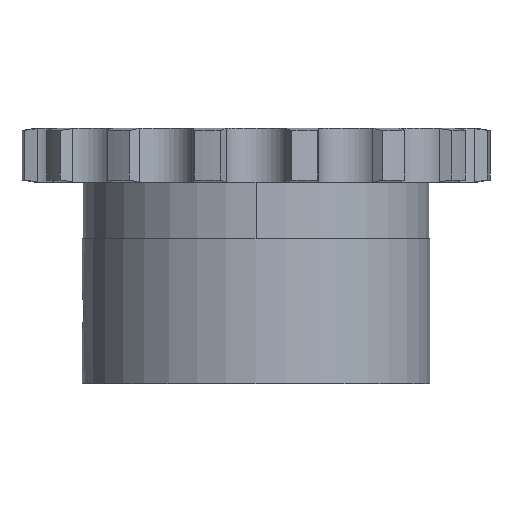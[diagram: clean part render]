
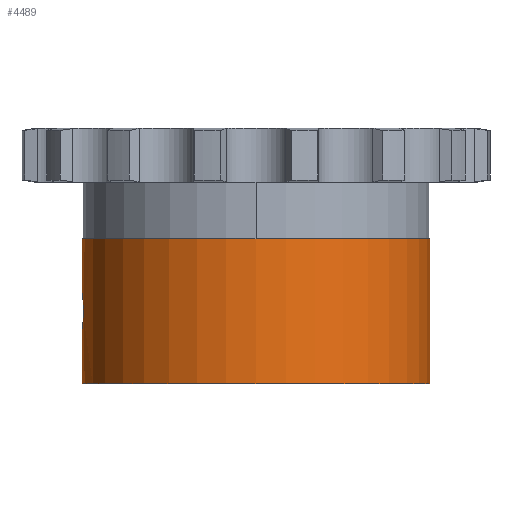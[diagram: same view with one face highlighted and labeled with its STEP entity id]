
A CAD part, front view. The second image highlights one B-rep face of the part: STEP entity #4489.
In plain terms, the highlighted cylindrical face has radius 17 mm (diameter 34 mm), a partial arc.
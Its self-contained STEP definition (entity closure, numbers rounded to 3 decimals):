
#1091=CARTESIAN_POINT('',(-17.,0.,
-13.25));
#1111=DIRECTION('',(0.,0.,1.));
#1112=VECTOR('',#1111,14.2);
#1113=CARTESIAN_POINT('',(17.,0.,-22.35));
#1114=LINE('',#1113,#1112);
#1231=CARTESIAN_POINT('',(0.,0.,-22.35));
#1232=DIRECTION('',(0.,0.,-1.));
#1233=DIRECTION('',(1.,0.,0.));
#1234=AXIS2_PLACEMENT_3D('',#1231,#1232,#1233);
#1260=CARTESIAN_POINT('',(-17.,0.,
-13.25));
#1261=CARTESIAN_POINT('',(-17.,-0.133,-13.25));
#1262=CARTESIAN_POINT('',(-16.997,-0.396,
-13.275));
#1263=CARTESIAN_POINT('',(-16.983,-0.788,
-13.39));
#1264=CARTESIAN_POINT('',(-16.962,-1.15,
-13.581));
#1265=CARTESIAN_POINT('',(-16.938,-1.466,
-13.838));
#1266=CARTESIAN_POINT('',(-16.913,-1.722,
-14.151));
#1267=CARTESIAN_POINT('',(-16.893,-1.908,
-14.503));
#1268=CARTESIAN_POINT('',(-16.88,-2.019,
-14.877));
#1269=CARTESIAN_POINT('',(-16.877,-2.042,
-15.125));
#1270=CARTESIAN_POINT('',(-16.877,-2.042,
-15.25));
#1275=DIRECTION('',(0.,0.,1.));
#1276=VECTOR('',#1275,5.1);
#1277=CARTESIAN_POINT('',(-17.,0.,
-13.25));
#1278=LINE('',#1277,#1276);
#1282=CARTESIAN_POINT('',(0.,0.,-8.15));
#1283=DIRECTION('',(0.,0.,1.));
#1284=DIRECTION('',(-1.,0.,0.));
#1285=AXIS2_PLACEMENT_3D('',#1282,#1283,#1284);
#1290=DIRECTION('',(0.,0.,1.));
#1291=VECTOR('',#1290,5.1);
#1292=CARTESIAN_POINT('',(-17.,0.,-22.35));
#1293=LINE('',#1292,#1291);
#1297=CARTESIAN_POINT('',(-16.877,-2.042,
-15.25));
#1298=CARTESIAN_POINT('',(-16.877,-2.042,
-15.375));
#1299=CARTESIAN_POINT('',(-16.88,-2.019,
-15.622));
#1300=CARTESIAN_POINT('',(-16.893,-1.909,
-15.996));
#1301=CARTESIAN_POINT('',(-16.913,-1.723,
-16.348));
#1302=CARTESIAN_POINT('',(-16.937,-1.466,
-16.661));
#1303=CARTESIAN_POINT('',(-16.962,-1.151,
-16.918));
#1304=CARTESIAN_POINT('',(-16.983,-0.789,
-17.109));
#1305=CARTESIAN_POINT('',(-16.997,-0.397,
-17.225));
#1306=CARTESIAN_POINT('',(-17.,-0.134,
-17.25));
#1307=CARTESIAN_POINT('',(-17.,0.,
-17.25));
#3040=CARTESIAN_POINT('',(-17.,0.,-22.35));
#3041=CARTESIAN_POINT('',(17.,0.,-22.35));
#3042=VERTEX_POINT('',#3040);
#3043=VERTEX_POINT('',#3041);
#3203=VERTEX_POINT('',#1091);
#3206=VERTEX_POINT('',#1270);
#3208=VERTEX_POINT('',#1307);
#3218=CARTESIAN_POINT('',(17.,0.,-8.15));
#3219=CARTESIAN_POINT('',(-17.,0.,-8.15));
#3220=VERTEX_POINT('',#3218);
#3221=VERTEX_POINT('',#3219);
#4473=CARTESIAN_POINT('',(0.,0.,2.65));
#4474=DIRECTION('',(0.,0.,1.));
#4475=DIRECTION('',(1.,0.,0.));
#4476=AXIS2_PLACEMENT_3D('',#4473,#4474,#4475);
#4477=CYLINDRICAL_SURFACE('',#4476,17.);
#4479=ORIENTED_EDGE('',*,*,#4478,.F.);
#4480=ORIENTED_EDGE('',*,*,#4223,.T.);
#4481=ORIENTED_EDGE('',*,*,#4198,.T.);
#4482=ORIENTED_EDGE('',*,*,#4220,.F.);
#4483=ORIENTED_EDGE('',*,*,#4459,.T.);
#4484=ORIENTED_EDGE('',*,*,#4216,.T.);
#4486=ORIENTED_EDGE('',*,*,#4485,.F.);
#4487=EDGE_LOOP('',(#4479,#4480,#4481,#4482,#4483,#4484,#4486));
#4488=FACE_OUTER_BOUND('',#4487,.F.);
#4489=ADVANCED_FACE('',(#4488),#4477,.T.);
#1235=CIRCLE('',#1234,17.);
#1271=B_SPLINE_CURVE_WITH_KNOTS('',3,(#1260,#1261,#1262,#1263,#1264,#1265,#1266,
#1267,#1268,#1269,#1270),.UNSPECIFIED.,.F.,.F.,(4,1,1,1,1,1,1,1,4),(0.,
0.125,0.25,0.375,0.5,0.625,0.75,0.875,1.),.UNSPECIFIED.);
#1286=CIRCLE('',#1285,17.);
#1308=B_SPLINE_CURVE_WITH_KNOTS('',3,(#1297,#1298,#1299,#1300,#1301,#1302,#1303,
#1304,#1305,#1306,#1307),.UNSPECIFIED.,.F.,.F.,(4,1,1,1,1,1,1,1,4),(0.,
0.125,0.25,0.375,0.5,0.625,0.75,0.875,1.),.UNSPECIFIED.);
#4198=EDGE_CURVE('',#3221,#3220,#1286,.T.);
#4216=EDGE_CURVE('',#3042,#3208,#1293,.T.);
#4220=EDGE_CURVE('',#3043,#3220,#1114,.T.);
#4223=EDGE_CURVE('',#3203,#3221,#1278,.T.);
#4459=EDGE_CURVE('',#3043,#3042,#1235,.T.);
#4478=EDGE_CURVE('',#3203,#3206,#1271,.T.);
#4485=EDGE_CURVE('',#3206,#3208,#1308,.T.);
